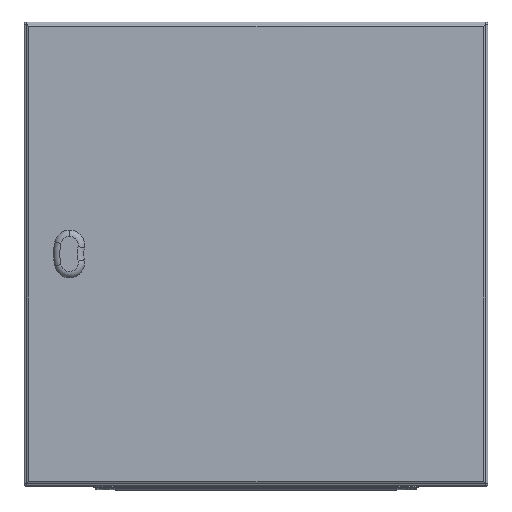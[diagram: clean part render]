
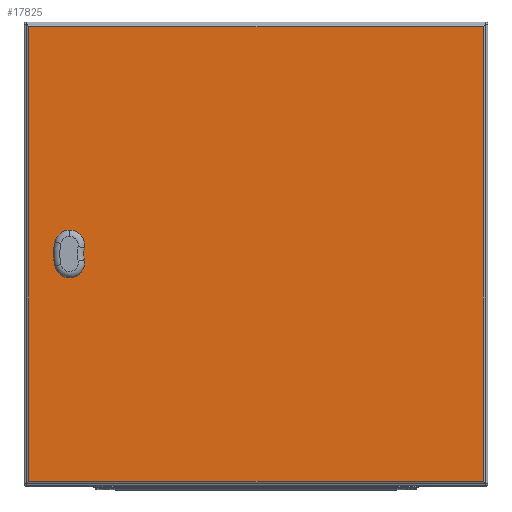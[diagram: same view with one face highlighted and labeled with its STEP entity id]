
A CAD part, top view. The second image highlights one B-rep face of the part: STEP entity #17825.
In plain terms, the highlighted planar face has unit normal (0, 0, 1) as drawn and (0, 0, -1) by its records, which use the part's own axes.
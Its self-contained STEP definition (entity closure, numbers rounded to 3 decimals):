
#25 = VECTOR ( 'NONE', #21288, 1000. ) ;
#72 = VERTEX_POINT ( 'NONE', #6516 ) ;
#290 = CARTESIAN_POINT ( 'NONE',  ( 190.95, -5.056, 0. ) ) ;
#317 = DIRECTION ( 'NONE',  ( 1., 0., 0. ) ) ;
#477 = CARTESIAN_POINT ( 'NONE',  ( 245., -245., 0. ) ) ;
#658 = VECTOR ( 'NONE', #22905, 1000. ) ;
#1385 = DIRECTION ( 'NONE',  ( -1., 0., 0. ) ) ;
#1640 = ORIENTED_EDGE ( 'NONE', *, *, #9756, .F. ) ;
#2031 = EDGE_CURVE ( 'NONE', #9206, #15857, #19975, .T. ) ;
#2143 = EDGE_CURVE ( 'NONE', #7022, #72, #16196, .T. ) ;
#2181 = VERTEX_POINT ( 'NONE', #15133 ) ;
#2185 = CARTESIAN_POINT ( 'NONE',  ( 201., 0., 0. ) ) ;
#2385 = VECTOR ( 'NONE', #16839, 1000. ) ;
#3021 = AXIS2_PLACEMENT_3D ( 'NONE', #7396, #19956, #12548 ) ;
#3223 = VECTOR ( 'NONE', #7218, 1000. ) ;
#4671 = CARTESIAN_POINT ( 'NONE',  ( -247.5, -245., 0. ) ) ;
#4879 = CARTESIAN_POINT ( 'NONE',  ( 206.056, 10.05, 0. ) ) ;
#5255 = VERTEX_POINT ( 'NONE', #7397 ) ;
#5283 = ORIENTED_EDGE ( 'NONE', *, *, #11592, .F. ) ;
#5624 = EDGE_LOOP ( 'NONE', ( #17430, #11461, #8592, #22196 ) ) ;
#6102 = CIRCLE ( 'NONE', #11717, 11.25 ) ;
#6243 = EDGE_CURVE ( 'NONE', #16024, #22983, #12493, .T. ) ;
#6247 = ORIENTED_EDGE ( 'NONE', *, *, #23075, .F. ) ;
#6516 = CARTESIAN_POINT ( 'NONE',  ( 211.05, -5.056, 0. ) ) ;
#6613 = VERTEX_POINT ( 'NONE', #8367 ) ;
#7022 = VERTEX_POINT ( 'NONE', #22479 ) ;
#7218 = DIRECTION ( 'NONE',  ( 1., 0., 0. ) ) ;
#7382 = FACE_BOUND ( 'NONE', #12693, .T. ) ;
#7396 = CARTESIAN_POINT ( 'NONE',  ( 201., 0., 0. ) ) ;
#7397 = CARTESIAN_POINT ( 'NONE',  ( 190.95, 5.056, 0. ) ) ;
#7571 = LINE ( 'NONE', #290, #2385 ) ;
#8118 = VERTEX_POINT ( 'NONE', #477 ) ;
#8367 = CARTESIAN_POINT ( 'NONE',  ( 190.95, -5.056, 0. ) ) ;
#8592 = ORIENTED_EDGE ( 'NONE', *, *, #22598, .T. ) ;
#8648 = CARTESIAN_POINT ( 'NONE',  ( 245., -247.5, 0. ) ) ;
#8963 = DIRECTION ( 'NONE',  ( 0., 0., -1. ) ) ;
#8998 = DIRECTION ( 'NONE',  ( -1., 0., 0. ) ) ;
#9169 = CARTESIAN_POINT ( 'NONE',  ( 211.05, -5.056, 0. ) ) ;
#9206 = VERTEX_POINT ( 'NONE', #12962 ) ;
#9443 = VECTOR ( 'NONE', #16325, 1000. ) ;
#9756 = EDGE_CURVE ( 'NONE', #5255, #16024, #13606, .T. ) ;
#9895 = CARTESIAN_POINT ( 'NONE',  ( 245., 245., 0. ) ) ;
#10201 = CARTESIAN_POINT ( 'NONE',  ( 206.056, -10.05, 0. ) ) ;
#10541 = LINE ( 'NONE', #10201, #22317 ) ;
#10674 = ORIENTED_EDGE ( 'NONE', *, *, #18413, .F. ) ;
#10741 = CARTESIAN_POINT ( 'NONE',  ( 201., 0., 0. ) ) ;
#10960 = DIRECTION ( 'NONE',  ( 1., 0., 0. ) ) ;
#11461 = ORIENTED_EDGE ( 'NONE', *, *, #17976, .T. ) ;
#11592 = EDGE_CURVE ( 'NONE', #22983, #7022, #15407, .T. ) ;
#11717 = AXIS2_PLACEMENT_3D ( 'NONE', #14239, #17541, #19646 ) ;
#12324 = ORIENTED_EDGE ( 'NONE', *, *, #21911, .F. ) ;
#12493 = LINE ( 'NONE', #17798, #3223 ) ;
#12548 = DIRECTION ( 'NONE',  ( 1., 0., 0. ) ) ;
#12693 = EDGE_LOOP ( 'NONE', ( #6247, #12324, #17506, #12825, #5283, #14153, #1640, #10674 ) ) ;
#12759 = DIRECTION ( 'NONE',  ( 0., 0., -1. ) ) ;
#12825 = ORIENTED_EDGE ( 'NONE', *, *, #2143, .F. ) ;
#12962 = CARTESIAN_POINT ( 'NONE',  ( -245., -245., 0. ) ) ;
#13045 = AXIS2_PLACEMENT_3D ( 'NONE', #14529, #12759, #18056 ) ;
#13606 = CIRCLE ( 'NONE', #15846, 11.25 ) ;
#13709 = LINE ( 'NONE', #8648, #658 ) ;
#14075 = PLANE ( 'NONE',  #13045 ) ;
#14153 = ORIENTED_EDGE ( 'NONE', *, *, #6243, .F. ) ;
#14239 = CARTESIAN_POINT ( 'NONE',  ( 201., 0., 0. ) ) ;
#14315 = EDGE_CURVE ( 'NONE', #8118, #9206, #18886, .T. ) ;
#14529 = CARTESIAN_POINT ( 'NONE',  ( 247.5, 247.5, 0. ) ) ;
#14883 = CARTESIAN_POINT ( 'NONE',  ( 195.944, 10.05, 0. ) ) ;
#15133 = CARTESIAN_POINT ( 'NONE',  ( 195.944, -10.05, 0. ) ) ;
#15407 = CIRCLE ( 'NONE', #3021, 11.25 ) ;
#15846 = AXIS2_PLACEMENT_3D ( 'NONE', #10741, #8963, #10960 ) ;
#15857 = VERTEX_POINT ( 'NONE', #23033 ) ;
#15892 = VECTOR ( 'NONE', #22555, 1000. ) ;
#16024 = VERTEX_POINT ( 'NONE', #14883 ) ;
#16196 = LINE ( 'NONE', #9169, #9443 ) ;
#16325 = DIRECTION ( 'NONE',  ( 0., -1., 0. ) ) ;
#16708 = AXIS2_PLACEMENT_3D ( 'NONE', #2185, #18280, #8998 ) ;
#16839 = DIRECTION ( 'NONE',  ( 0., 1., 0. ) ) ;
#17209 = VERTEX_POINT ( 'NONE', #9895 ) ;
#17430 = ORIENTED_EDGE ( 'NONE', *, *, #2031, .T. ) ;
#17506 = ORIENTED_EDGE ( 'NONE', *, *, #19587, .F. ) ;
#17541 = DIRECTION ( 'NONE',  ( 0., 0., -1. ) ) ;
#17798 = CARTESIAN_POINT ( 'NONE',  ( 206.056, 10.05, 0. ) ) ;
#17825 = ADVANCED_FACE ( 'NONE', ( #7382, #19946 ), #14075, .T. ) ;
#17976 = EDGE_CURVE ( 'NONE', #15857, #17209, #20537, .T. ) ;
#18056 = DIRECTION ( 'NONE',  ( -1., 0., 0. ) ) ;
#18280 = DIRECTION ( 'NONE',  ( 0., 0., -1. ) ) ;
#18413 = EDGE_CURVE ( 'NONE', #6613, #5255, #7571, .T. ) ;
#18506 = CARTESIAN_POINT ( 'NONE',  ( 247.5, 245., 0. ) ) ;
#18886 = LINE ( 'NONE', #4671, #15892 ) ;
#19012 = CARTESIAN_POINT ( 'NONE',  ( 206.056, -10.05, 0. ) ) ;
#19587 = EDGE_CURVE ( 'NONE', #72, #21799, #6102, .T. ) ;
#19646 = DIRECTION ( 'NONE',  ( -1., 0., 0. ) ) ;
#19890 = VECTOR ( 'NONE', #317, 1000. ) ;
#19946 = FACE_OUTER_BOUND ( 'NONE', #5624, .T. ) ;
#19956 = DIRECTION ( 'NONE',  ( 0., 0., -1. ) ) ;
#19975 = LINE ( 'NONE', #21638, #25 ) ;
#20116 = CIRCLE ( 'NONE', #16708, 11.25 ) ;
#20537 = LINE ( 'NONE', #18506, #19890 ) ;
#21288 = DIRECTION ( 'NONE',  ( 0., 1., 0. ) ) ;
#21638 = CARTESIAN_POINT ( 'NONE',  ( -245., 247.5, 0. ) ) ;
#21799 = VERTEX_POINT ( 'NONE', #19012 ) ;
#21911 = EDGE_CURVE ( 'NONE', #21799, #2181, #10541, .T. ) ;
#22196 = ORIENTED_EDGE ( 'NONE', *, *, #14315, .T. ) ;
#22317 = VECTOR ( 'NONE', #1385, 1000. ) ;
#22479 = CARTESIAN_POINT ( 'NONE',  ( 211.05, 5.056, 0. ) ) ;
#22555 = DIRECTION ( 'NONE',  ( -1., 0., 0. ) ) ;
#22598 = EDGE_CURVE ( 'NONE', #17209, #8118, #13709, .T. ) ;
#22905 = DIRECTION ( 'NONE',  ( 0., -1., 0. ) ) ;
#22983 = VERTEX_POINT ( 'NONE', #4879 ) ;
#23033 = CARTESIAN_POINT ( 'NONE',  ( -245., 245., 0. ) ) ;
#23075 = EDGE_CURVE ( 'NONE', #2181, #6613, #20116, .T. ) ;
